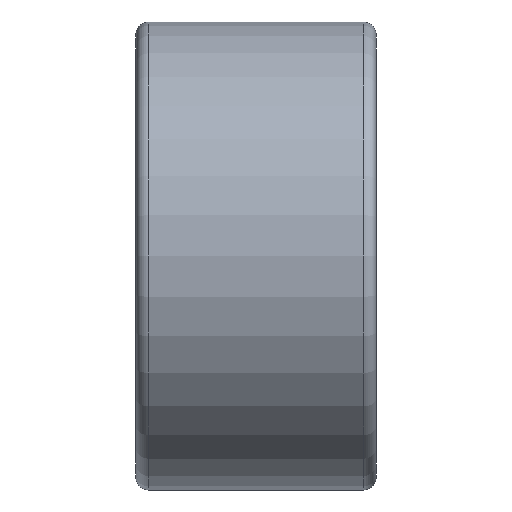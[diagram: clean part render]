
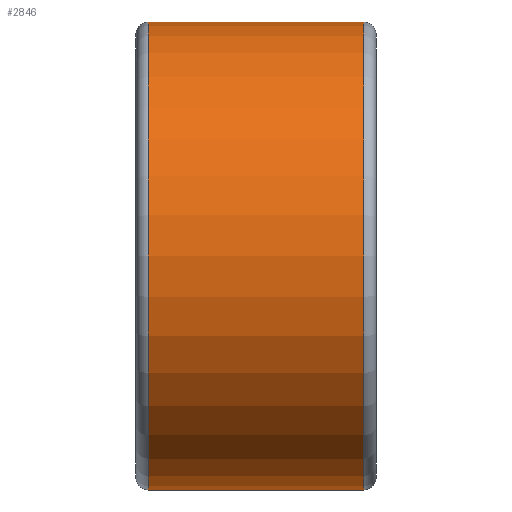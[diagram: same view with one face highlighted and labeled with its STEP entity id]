
A CAD part, front view. The second image highlights one B-rep face of the part: STEP entity #2846.
In plain terms, the highlighted cylindrical face has radius 18.5 mm (diameter 37 mm), a full revolution.
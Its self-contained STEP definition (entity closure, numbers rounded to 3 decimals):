
#430=FACE_OUTER_BOUND('',#584,.T.);
#584=EDGE_LOOP('',(#2634,#2635,#2636,#2637,#2638,#2639,#2640,#2641));
#904=CIRCLE('',#3146,18.5);
#905=CIRCLE('',#3147,18.5);
#907=CIRCLE('',#3149,18.5);
#908=CIRCLE('',#3151,18.5);
#909=CIRCLE('',#3152,18.5);
#910=CIRCLE('',#3153,18.5);
#1015=LINE('',#8673,#1110);
#1110=VECTOR('',#3721,18.5);
#1379=VERTEX_POINT('',#8660);
#1380=VERTEX_POINT('',#8661);
#1381=VERTEX_POINT('',#8663);
#1382=VERTEX_POINT('',#8668);
#1383=VERTEX_POINT('',#8669);
#1384=VERTEX_POINT('',#8671);
#1800=EDGE_CURVE('',#1379,#1380,#904,.T.);
#1801=EDGE_CURVE('',#1380,#1381,#905,.T.);
#1803=EDGE_CURVE('',#1381,#1379,#907,.T.);
#1804=EDGE_CURVE('',#1382,#1383,#908,.T.);
#1805=EDGE_CURVE('',#1384,#1382,#909,.T.);
#1806=EDGE_CURVE('',#1384,#1380,#1015,.T.);
#1807=EDGE_CURVE('',#1383,#1384,#910,.T.);
#2634=ORIENTED_EDGE('',*,*,#1804,.F.);
#2635=ORIENTED_EDGE('',*,*,#1805,.F.);
#2636=ORIENTED_EDGE('',*,*,#1806,.T.);
#2637=ORIENTED_EDGE('',*,*,#1800,.F.);
#2638=ORIENTED_EDGE('',*,*,#1803,.F.);
#2639=ORIENTED_EDGE('',*,*,#1801,.F.);
#2640=ORIENTED_EDGE('',*,*,#1806,.F.);
#2641=ORIENTED_EDGE('',*,*,#1807,.F.);
#2698=CYLINDRICAL_SURFACE('',#3150,18.5);
#2846=ADVANCED_FACE('',(#430),#2698,.T.);
#3146=AXIS2_PLACEMENT_3D('',#8662,#3707,#3708);
#3147=AXIS2_PLACEMENT_3D('',#8664,#3709,#3710);
#3149=AXIS2_PLACEMENT_3D('',#8666,#3713,#3714);
#3150=AXIS2_PLACEMENT_3D('',#8667,#3715,#3716);
#3151=AXIS2_PLACEMENT_3D('',#8670,#3717,#3718);
#3152=AXIS2_PLACEMENT_3D('',#8672,#3719,#3720);
#3153=AXIS2_PLACEMENT_3D('',#8674,#3722,#3723);
#3707=DIRECTION('center_axis',(-1.,0.,0.));
#3708=DIRECTION('ref_axis',(0.,-1.,0.));
#3709=DIRECTION('center_axis',(-1.,0.,0.));
#3710=DIRECTION('ref_axis',(0.,-1.,0.));
#3713=DIRECTION('center_axis',(-1.,0.,0.));
#3714=DIRECTION('ref_axis',(0.,-1.,0.));
#3715=DIRECTION('center_axis',(1.,0.,0.));
#3716=DIRECTION('ref_axis',(0.,1.,0.));
#3717=DIRECTION('center_axis',(1.,0.,0.));
#3718=DIRECTION('ref_axis',(0.,-1.,0.));
#3719=DIRECTION('center_axis',(1.,0.,0.));
#3720=DIRECTION('ref_axis',(0.,-1.,0.));
#3721=DIRECTION('',(-1.,0.,0.));
#3722=DIRECTION('center_axis',(1.,0.,0.));
#3723=DIRECTION('ref_axis',(0.,-1.,0.));
#8660=CARTESIAN_POINT('',(-8.5,18.5,0.));
#8661=CARTESIAN_POINT('',(-8.5,-18.5,0.));
#8662=CARTESIAN_POINT('Origin',(-8.5,0.,0.));
#8663=CARTESIAN_POINT('',(-8.5,0.,18.5));
#8664=CARTESIAN_POINT('Origin',(-8.5,0.,0.));
#8666=CARTESIAN_POINT('Origin',(-8.5,0.,0.));
#8667=CARTESIAN_POINT('Origin',(0.,0.,
0.));
#8668=CARTESIAN_POINT('',(8.5,18.5,0.));
#8669=CARTESIAN_POINT('',(8.5,0.,18.5));
#8670=CARTESIAN_POINT('Origin',(8.5,0.,0.));
#8671=CARTESIAN_POINT('',(8.5,-18.5,0.));
#8672=CARTESIAN_POINT('Origin',(8.5,0.,0.));
#8673=CARTESIAN_POINT('',(0.,-18.5,0.));
#8674=CARTESIAN_POINT('Origin',(8.5,0.,0.));
